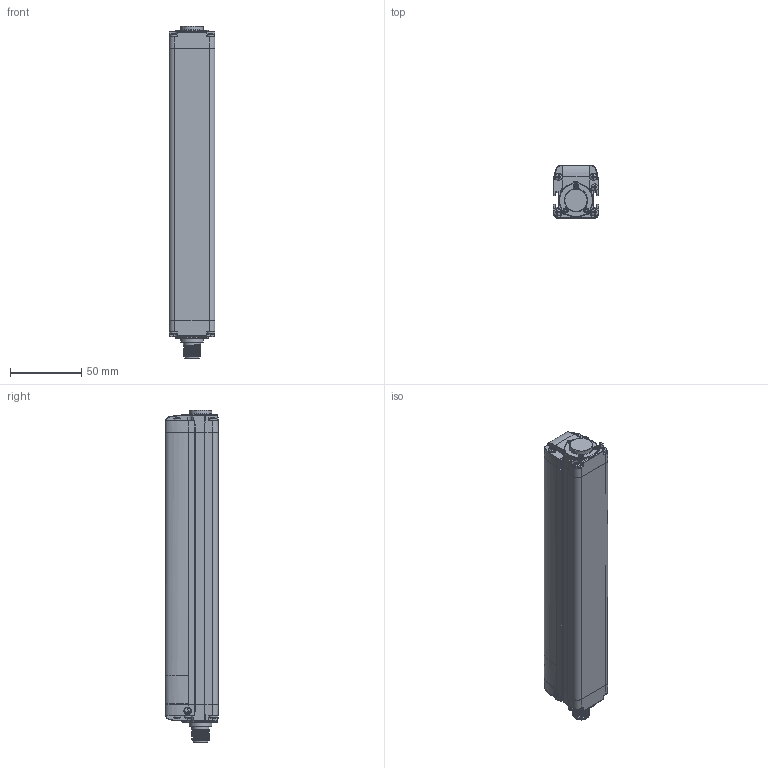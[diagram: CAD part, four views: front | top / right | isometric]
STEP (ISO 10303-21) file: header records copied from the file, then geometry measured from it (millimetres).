
FILE_DESCRIPTION(/* description */ (''),/* implementation_level */ '2;1');
FILE_NAME(/* name */ 'DSD-0157.stp',/* time_stamp */ '2020-07-16T09:34:40+02:00',/* author */ (''),/* organization */ (''),/* preprocessor_version */ 'ST-DEVELOPER v16.7',/* originating_system */ 'SIEMENS PLM Software NX 12.0',/* authorisation */ '');
FILE_SCHEMA (('AUTOMOTIVE_DESIGN { 1 0 10303 214 3 1 1 1 }'));
Products named in the file (1): AP025804_00_1-DSD-0157
Bounding box: 32.3 x 36.9 x 233.34 mm (x, y, z)
Volume: 198312.9 mm3; surface area: 58878.1 mm2
Topology: 12 solids, 716 shells, 1629 faces, 5087 edges, 4004 vertices
Faces by surface type: cylinder 607, bspline 558, plane 378, sphere 49, cone 29, torus 8
Full cylindrical faces by diameter (mm): 1 x10, 1.5 x6, 2 x6, 2.05 x4, 2.5 x12, 2.7 x10, 2.9 x6, 3 x12, 3.4 x6, 3.6 x12, 4.7 x2, 5 x10, 5.3 x2, 7.5 x1, 8 x1, 8.2 x1, 9.3 x1, 9.5 x1, 9.55 x1, 10.5 x1, 11 x2, 12 x12, 13.97 x1, 14.3 x1, 16 x2
Entity records: 83957 total; most frequent: CARTESIAN_POINT 35659, ORIENTED_EDGE 6888, DIRECTION 5930, EDGE_CURVE 4870, VERTEX_POINT 3994, AXIS2_PLACEMENT_3D 2325, EDGE_LOOP 1860, PRESENTATION_STYLE_ASSIGNMENT 1631
